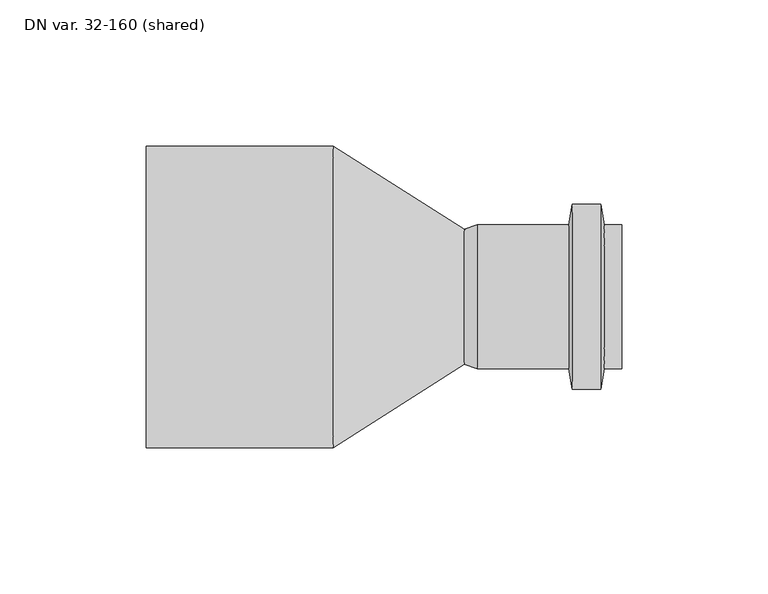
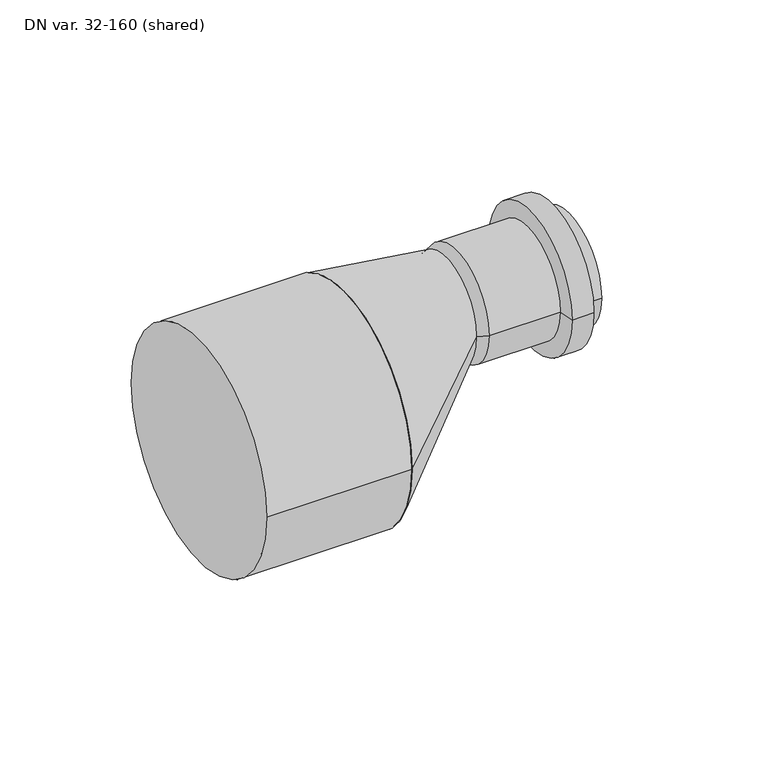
"""IFC4 building model written with IfcOpenShell, lengths in millimetres: pipe fitting geometry, ZZZ_Master 3+ reducer-sh_Pipelife : DN var. 32-160 (shared)."""

from ifc_helpers import new_model, si_unit, point, frame, origin, origin_2d, place, context, project, spatial, polyline, circle_curve, trimmed, segment, composite_curve, outline, extrude, source, transform, mapped, element, save
from ifc_brep_helpers import plane_surface, cylinder_surface, revolved_surface, spline_surface, advanced_brep


def dn_var_32_160_shared_368759eb(model_context):
    return source(origin(), model_context, "Body", "SolidModel", [
        advanced_brep(
        [(54.5, 23.1, 28.6), (54.5, -23.1, 28.6), (108.4, -23.1, 28.6), (108.4, 23.1, 28.6), (58.8959639, 24.7, 28.6), (58.8959639, -24.7, 28.6), (90.2, 24.7, 28.6), (90.2, -24.7, 28.6), (91.4254725, 31.65, 28.6), (91.4254725, -31.65, 28.6), (101.0745275, 31.65, 28.6), (101.0745275, -31.65, 28.6), (102.3, 24.7, 28.6), (102.3, -24.7, 28.6), (108.4, 24.7, 28.6), (108.4, -24.7, 28.6)],
        [
            (0, 1, circle_curve(frame((54.5, 0.0, 28.6), z_axis=(-1.0, 0.0, 0.0), x_axis=(0.0, -1.0000000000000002, 0.0)), 23.1)),
            (1, 2),
            (2, 3, circle_curve(frame((108.4, 0.0, 28.6), z_axis=(1.0, 0.0, 0.0), x_axis=(0.0, -1.0000000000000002, 0.0)), 23.1)),
            (3, 0),
            (1, 0, circle_curve(frame((54.5, 0.0, 28.6), z_axis=(-1.0, 0.0, 0.0), x_axis=(0.0, -1.0000000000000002, 0.0)), 23.1)),
            (3, 2, circle_curve(frame((108.4, 0.0, 28.6), z_axis=(1.0, 0.0, 0.0), x_axis=(0.0, -1.0000000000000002, 0.0)), 23.1)),
            (4, 5, circle_curve(frame((58.8959639, 0.0, 28.6), z_axis=(-1.0, 0.0, 0.0), x_axis=(0.0, -1.0000000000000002, 0.0)), 24.7)),
            (5, 1),
            (0, 4),
            (5, 4, circle_curve(frame((58.8959639, 0.0, 28.6), z_axis=(-1.0, 0.0, 0.0), x_axis=(0.0, -1.0000000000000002, 0.0)), 24.7)),
            (6, 7, circle_curve(frame((90.2, 0.0, 28.6), z_axis=(-1.0, 0.0, 0.0), x_axis=(0.0, -1.0000000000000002, 0.0)), 24.7)),
            (7, 5),
            (4, 6),
            (7, 6, circle_curve(frame((90.2, 0.0, 28.6), z_axis=(-1.0, 0.0, 0.0), x_axis=(0.0, -1.0000000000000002, 0.0)), 24.7)),
            (8, 9, circle_curve(frame((91.4254725, 0.0, 28.6), z_axis=(-1.0, 0.0, 0.0), x_axis=(0.0, -1.0000000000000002, 0.0)), 31.65)),
            (9, 7),
            (6, 8),
            (9, 8, circle_curve(frame((91.4254725, 0.0, 28.6), z_axis=(-1.0, 0.0, 0.0), x_axis=(0.0, -1.0000000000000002, 0.0)), 31.65)),
            (10, 11, circle_curve(frame((101.0745275, 0.0, 28.6), z_axis=(-1.0, 0.0, 0.0), x_axis=(0.0, -1.0000000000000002, 0.0)), 31.65)),
            (11, 9),
            (8, 10),
            (11, 10, circle_curve(frame((101.0745275, 0.0, 28.6), z_axis=(-1.0, 0.0, 0.0), x_axis=(0.0, -1.0000000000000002, 0.0)), 31.65)),
            (12, 13, circle_curve(frame((102.3, 0.0, 28.6), z_axis=(-1.0, 0.0, 0.0), x_axis=(0.0, -1.0000000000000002, 0.0)), 24.7)),
            (13, 11),
            (10, 12),
            (13, 12, circle_curve(frame((102.3, 0.0, 28.6), z_axis=(-1.0, 0.0, 0.0), x_axis=(0.0, -1.0000000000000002, 0.0)), 24.7)),
            (14, 15, circle_curve(frame((108.4, 0.0, 28.6), z_axis=(-1.0, 0.0, 0.0), x_axis=(0.0, -1.0000000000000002, 0.0)), 24.7)),
            (15, 13),
            (12, 14),
            (15, 14, circle_curve(frame((108.4, 0.0, 28.6), z_axis=(-1.0, 0.0, 0.0), x_axis=(0.0, -1.0000000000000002, 0.0)), 24.7)),
            (2, 15),
            (14, 3),
        ],
        [
            revolved_surface(polyline([(108.4, -23.100000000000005, 28.6), (54.49999999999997, -23.100000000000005, 28.6)]), (118.4, 0.0, 28.6), (1.0000000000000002, 0.0, 0.0)),
            revolved_surface(polyline([(54.5, -23.1, 28.6), (58.8959639, -24.7, 28.6)]), (118.4, 0.0, 28.6), (1.0000000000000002, 0.0, 0.0)),
            cylinder_surface(frame((118.4, 0.0, 28.6), z_axis=(1.0000000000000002, 0.0, 0.0), x_axis=(0.0, -1.0000000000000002, 0.0)), 24.7),
            revolved_surface(polyline([(90.2, -24.7, 28.6), (91.4254725, -31.65, 28.6)]), (118.4, 0.0, 28.6), (1.0000000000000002, 0.0, 0.0)),
            cylinder_surface(frame((118.4, 0.0, 28.6), z_axis=(1.0000000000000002, 0.0, 0.0), x_axis=(0.0, -1.0000000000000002, 0.0)), 31.65),
            revolved_surface(polyline([(101.0745275, -31.65, 28.6), (102.3, -24.7, 28.6)]), (118.4, 0.0, 28.6), (1.0000000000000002, 0.0, 0.0)),
            plane_surface(frame((108.4, 0.0, 28.6), z_axis=(1.0, 0.0, 0.0), x_axis=(0.0, -1.0, 0.0))),
        ],
        [
            (0, [[1, 2, 3, 4]]),
            (0, [[5, -4, 6, -2]]),
            (1, [[7, 8, -1, 9]]),
            (1, [[10, -9, -5, -8]]),
            (2, [[11, 12, -7, 13]]),
            (2, [[14, -13, -10, -12]]),
            (3, [[15, 16, -11, 17]]),
            (3, [[18, -17, -14, -16]]),
            (4, [[19, 20, -15, 21]]),
            (4, [[22, -21, -18, -20]]),
            (5, [[23, 24, -19, 25]]),
            (5, [[26, -25, -22, -24]]),
            (2, [[27, 28, -23, 29]]),
            (2, [[30, -29, -26, -28]]),
            (6, [[-3, 31, -27, 32]]),
            (6, [[-6, -32, -30, -31]]),
        ],
    ),
        advanced_brep(
        [(54.5, -23.1, 28.6), (54.5, 23.1, 28.6), (9.5, -51.6, 0.0), (9.5, 51.6, 0.0)],
        [
            (0, 1, circle_curve(frame((54.5, 0.0, 28.6), z_axis=(1.0, 0.0, 0.0), x_axis=(0.0, 1.0, 0.0)), 23.1)),
            (1, 0, circle_curve(frame((54.5, 0.0, 28.6), z_axis=(1.0, 0.0, 0.0), x_axis=(0.0, 1.0, 0.0)), 23.1)),
            (2, 3, circle_curve(frame((9.5, 0.0, 0.0), z_axis=(-1.0, 0.0, 0.0), x_axis=(0.0, 1.0, 0.0)), 51.6)),
            (3, 2, circle_curve(frame((9.5, 0.0, 0.0), z_axis=(-1.0, 0.0, 0.0), x_axis=(0.0, 1.0, 0.0)), 51.6)),
            (3, 1),
            (0, 2),
        ],
        [
            plane_surface(frame((54.5, 0.0, 28.6), z_axis=(1.0, 0.0, 0.0), x_axis=(0.0, 0.0, -1.0))),
            plane_surface(frame((9.5, 0.0, 0.0), z_axis=(-1.0, 0.0, 0.0), x_axis=(0.0, 0.0, -1.0))),
            spline_surface(2, 1, [[(9.5, -51.6, 0.0), (54.5, -23.1, 28.6)], [(9.5, -51.6, -51.6), (54.5, -23.1, 5.5)], [(9.5, 0.0, -51.6), (54.5, 0.0, 5.5)], [(9.5, 51.6, -51.6), (54.5, 23.1, 5.5)], [(9.5, 51.6, 0.0), (54.5, 23.1, 28.6)]], [3, 2, 3], [2, 2], [0.0, 1.0, 2.0], [0.0, 1.0], weights=[[1.0, 1.0], [0.7071067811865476, 0.7071067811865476], [1.0, 1.0], [0.7071067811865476, 0.7071067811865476], [1.0, 1.0]]),
            spline_surface(2, 1, [[(9.5, 51.6, 0.0), (54.5, 23.1, 28.6)], [(9.5, 51.6, 51.6), (54.5, 23.1, 51.7)], [(9.5, 0.0, 51.6), (54.5, 0.0, 51.7)], [(9.5, -51.6, 51.6), (54.5, -23.1, 51.7)], [(9.5, -51.6, 0.0), (54.5, -23.1, 28.6)]], [3, 2, 3], [2, 2], [0.0, 1.0, 2.0], [0.0, 1.0], weights=[[1.0, 1.0], [0.7071067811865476, 0.7071067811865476], [1.0, 1.0], [0.7071067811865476, 0.7071067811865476], [1.0, 1.0]]),
        ],
        [
            (0, [[1, 2]]),
            (1, [[3, 4]]),
            (2, [[-4, 5, -1, 6]]),
            (3, [[-3, -6, -2, -5]]),
        ],
    ),
        extrude(outline(composite_curve([segment(trimmed(circle_curve(origin_2d(), 51.6), [point((-51.6, 0.0))], [point((51.6, 0.0))], False, "CARTESIAN"), True, "CONTINUOUS"), segment(trimmed(circle_curve(origin_2d(), 51.6), [point((51.6, 0.0))], [point((-51.6, 0.0))], False, "CARTESIAN"), True, "CONTINUOUS")], self_intersect=False)), frame((-54.5, 0.0, 0.0), z_axis=(1.0, 0.0, 0.0), x_axis=(0.0, 1.0, 0.0)), (0.0, 0.0, 1.0), 64.0),
    ])


if __name__ == "__main__":
    model = new_model("IFC4")
    model_context = context("Model", 3, world=origin())
    ifc_project = project(units=[si_unit("LENGTHUNIT", "METRE", prefix="MILLI")], contexts=[model_context])
    site = spatial("IfcSite", under=ifc_project)
    building = spatial("IfcBuilding", under=site)
    placement = place(None, origin())
    dn_var_32_160_shared_shape = dn_var_32_160_shared_368759eb(model_context)
    element("IfcPipeFitting", 1, ObjectType="ZZZ_Master 3+ reducer-sh_Pipelife : DN var. 32-160 (shared)", at=placement, inside=building, context=model_context, shape_type="MappedRepresentation", body=[
        mapped(dn_var_32_160_shared_shape, transform((0.0, 0.0, 0.0), x_axis=(1.0, 0.0, 0.0), y_axis=(0.0, 1.0, 0.0), z_axis=(0.0, 0.0, 1.0))),
    ])
    save(model, "model.ifc")
